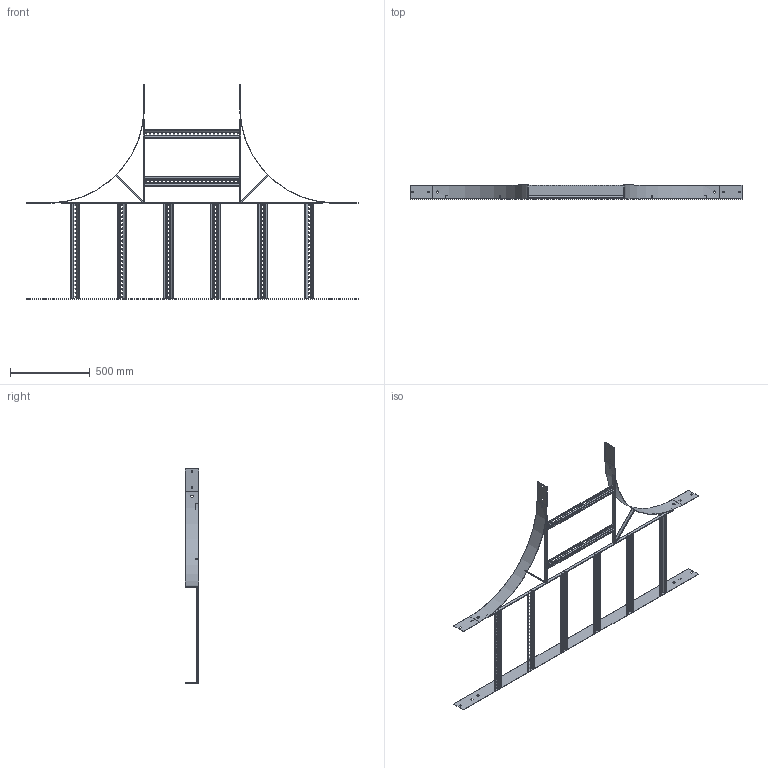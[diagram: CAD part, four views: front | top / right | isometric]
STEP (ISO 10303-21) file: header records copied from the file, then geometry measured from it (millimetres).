
FILE_DESCRIPTION (( 'STEP AP203' ), '1' );
FILE_NAME ('N2 T 6006.STEP', '2024-08-27T22:56:17', ( '' ), ( '' ), 'SwSTEP 2.0', 'SolidWorks 2023', '' );
FILE_SCHEMA (( 'CONFIG_CONTROL_DESIGN' ));
Length unit declared in the file: millimetre
Products named in the file (7): Ladder Tee 20x5 Flat Bar_240; Ladder Tee 20x5 Flat Bar_1645; N2 T 6006; N2 Back Plate_2100; N2 RADIUS PLATE_N1-600 IR; Ladder Rung_Ladder Rung -  600mm; Ladder Tee 20x5 Flat Bar_518
Assembly tree (16 placements, depth 2):
  N2 T 6006
    N2 Back Plate_2100
    Ladder Rung_Ladder Rung -  600mm  x8
    Ladder Tee 20x5 Flat Bar_1645
    N2 RADIUS PLATE_N1-600 IR  x2
    Ladder Tee 20x5 Flat Bar_518  x2
    Ladder Tee 20x5 Flat Bar_240  x2
Bounding box: 2085 x 87 x 1344.5 mm (x, y, z)
Volume: 1612327.7 mm3; surface area: 1638940.1 mm2
Topology: 16 solids, 16 shells, 1228 faces, 3316 edges, 2120 vertices
Faces by surface type: plane 1148, cylinder 80
Entity records: 8053 total; most frequent: CARTESIAN_POINT 1519, ORIENTED_EDGE 1144, DIRECTION 1062, EDGE_CURVE 572, LINE 536, VECTOR 536, VERTEX_POINT 368, EDGE_LOOP 286
